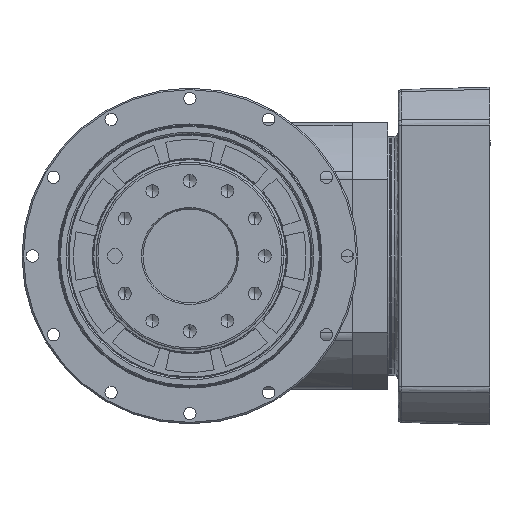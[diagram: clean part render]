
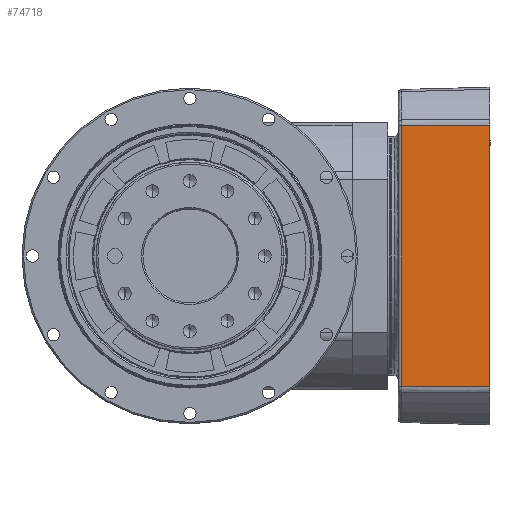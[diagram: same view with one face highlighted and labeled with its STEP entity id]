
A CAD part, left-side view. The second image highlights one B-rep face of the part: STEP entity #74718.
In plain terms, the highlighted planar face has unit normal (-1, 0.026, 0).
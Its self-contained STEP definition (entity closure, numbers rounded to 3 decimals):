
#2584 = EDGE_CURVE ( 'NONE', #51876, #57632, #5465, .T. ) ;
#3524 = VERTEX_POINT ( 'NONE', #81303 ) ;
#5457 = ORIENTED_EDGE ( 'NONE', *, *, #75882, .T. ) ;
#5465 = LINE ( 'NONE', #82161, #42278 ) ;
#10111 = ORIENTED_EDGE ( 'NONE', *, *, #51537, .F. ) ;
#11709 = DIRECTION ( 'NONE',  ( 0., 0., 1. ) ) ;
#16246 = VECTOR ( 'NONE', #25588, 1000. ) ;
#25588 = DIRECTION ( 'NONE',  ( 0.026, 1., -0.009 ) ) ;
#26720 = AXIS2_PLACEMENT_3D ( 'NONE', #64485, #59072, #64896 ) ;
#27897 = EDGE_CURVE ( 'NONE', #3524, #57632, #63932, .T. ) ;
#36862 = CARTESIAN_POINT ( 'NONE',  ( 43.72, -162.68, 78.911 ) ) ;
#39076 = PLANE ( 'NONE',  #26720 ) ;
#42278 = VECTOR ( 'NONE', #11709, 1000. ) ;
#42732 = CARTESIAN_POINT ( 'NONE',  ( 44.953, -115.628, 81.121 ) ) ;
#44881 = LINE ( 'NONE', #70266, #77521 ) ;
#46986 = FACE_OUTER_BOUND ( 'NONE', #68482, .T. ) ;
#50301 = DIRECTION ( 'NONE',  ( 0.026, 1., 0.009 ) ) ;
#51537 = EDGE_CURVE ( 'NONE', #81932, #51876, #44881, .T. ) ;
#51876 = VERTEX_POINT ( 'NONE', #42732 ) ;
#53447 = VECTOR ( 'NONE', #73970, 1000. ) ;
#56499 = CARTESIAN_POINT ( 'NONE',  ( 43.72, -162.68, 80.678 ) ) ;
#57295 = CARTESIAN_POINT ( 'NONE',  ( 44.953, -115.628, 219.879 ) ) ;
#57632 = VERTEX_POINT ( 'NONE', #74296 ) ;
#59072 = DIRECTION ( 'NONE',  ( -1., 0.026, 0. ) ) ;
#63932 = LINE ( 'NONE', #57295, #16246 ) ;
#64485 = CARTESIAN_POINT ( 'NONE',  ( 43.72, -162.68, 78.911 ) ) ;
#64896 = DIRECTION ( 'NONE',  ( -0.026, -1., 0. ) ) ;
#67049 = ORIENTED_EDGE ( 'NONE', *, *, #2584, .F. ) ;
#68482 = EDGE_LOOP ( 'NONE', ( #5457, #75112, #67049, #10111 ) ) ;
#68523 = LINE ( 'NONE', #36862, #53447 ) ;
#70266 = CARTESIAN_POINT ( 'NONE',  ( 43.72, -162.68, 80.678 ) ) ;
#73970 = DIRECTION ( 'NONE',  ( 0., 0., 1. ) ) ;
#74296 = CARTESIAN_POINT ( 'NONE',  ( 44.953, -115.628, 219.879 ) ) ;
#74718 = ADVANCED_FACE ( 'NONE', ( #46986 ), #39076, .T. ) ;
#75112 = ORIENTED_EDGE ( 'NONE', *, *, #27897, .T. ) ;
#75882 = EDGE_CURVE ( 'NONE', #81932, #3524, #68523, .T. ) ;
#77521 = VECTOR ( 'NONE', #50301, 1000. ) ;
#81303 = CARTESIAN_POINT ( 'NONE',  ( 43.72, -162.68, 220.322 ) ) ;
#81932 = VERTEX_POINT ( 'NONE', #56499 ) ;
#82161 = CARTESIAN_POINT ( 'NONE',  ( 44.953, -115.628, 78.911 ) ) ;
